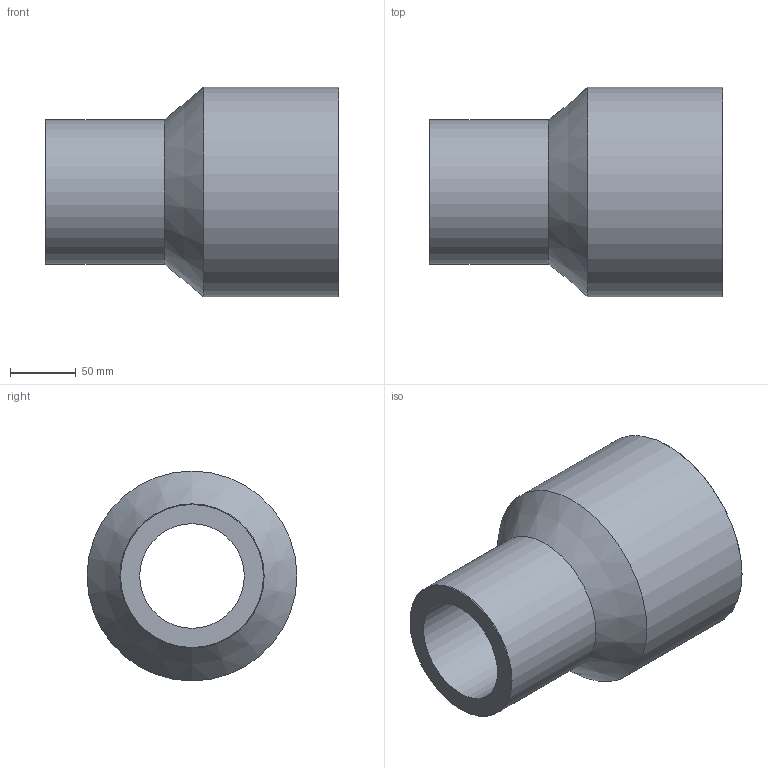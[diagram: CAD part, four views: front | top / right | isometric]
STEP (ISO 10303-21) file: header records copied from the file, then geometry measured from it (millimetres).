
FILE_DESCRIPTION(/* description */ ('Unknown'),/* implementation_level */ '2;1');
FILE_NAME(/* name */ 'RP160110H',/* time_stamp */ '2021-09-16T12:38:46+02:00',/* author */ ('Unknown'),/* organization */ ('Unknown'),/* preprocessor_version */ 'ST-DEVELOPER v16.7',/* originating_system */ 'Solid Edge',/* authorisation */ 'Unknown');
FILE_SCHEMA (('AUTOMOTIVE_DESIGN {1 0 10303 214 3 1 1}'));
Length unit declared in the file: millimetre
Products named in the file (1): RP160110H
Bounding box: 224 x 160 x 160 mm (x, y, z)
Volume: 1638123.4 mm3; surface area: 183933.8 mm2
Topology: 1 solids, 1 shells, 10 faces, 19 edges, 11 vertices
Faces by surface type: cylinder 4, cone 4, plane 2
Full cylindrical faces by diameter (mm): 79.8 x1, 110 x1, 116.2 x1, 160 x1
Entity records: 238 total; most frequent: DIRECTION 42, CARTESIAN_POINT 31, AXIS2_PLACEMENT_3D 21, ORIENTED_EDGE 20, EDGE_LOOP 20, FACE_BOUND 20, EDGE_CURVE 10, VERTEX_POINT 10
